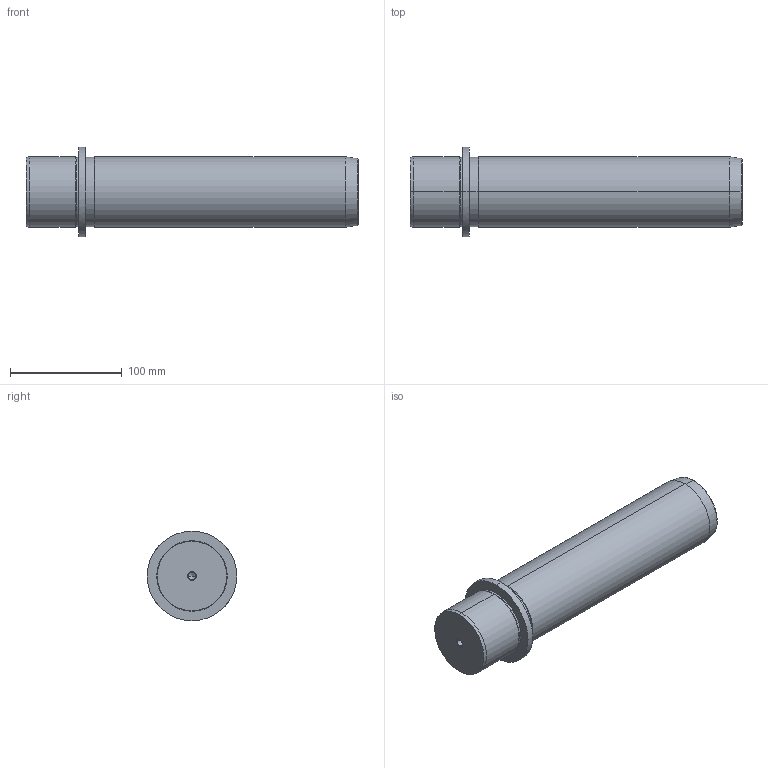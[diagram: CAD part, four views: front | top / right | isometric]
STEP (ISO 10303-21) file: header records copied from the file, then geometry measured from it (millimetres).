
FILE_DESCRIPTION(('CATIA V5 STEP Exchange'),'2;1');
FILE_NAME('C:\Users\Utente\Desktop\IO LAVORO\3D X SITO CF\X SITO\718\718-63x250.stp','2021-01-02T07:43:44+00:00',('none'),('none'),'CATIA Version 5 Release 20 GA (IN-10)','CATIA V5 STEP AP203','none');
FILE_SCHEMA(('CONFIG_CONTROL_DESIGN'));
Length unit declared in the file: millimetre
Products named in the file (1): 718-63x250
Bounding box: 297 x 80 x 80 mm (x, y, z)
Volume: 932547.2 mm3; surface area: 69895.9 mm2
Topology: 1 solids, 1 shells, 36 faces, 100 edges, 66 vertices
Faces by surface type: cone 16, cylinder 14, plane 4, torus 2
Entity records: 1291 total; most frequent: CARTESIAN_POINT 362, ORIENTED_EDGE 192, DIRECTION 157, EDGE_CURVE 96, AXIS2_PLACEMENT_3D 92, VERTEX_POINT 66, CIRCLE 55, EDGE_LOOP 40
